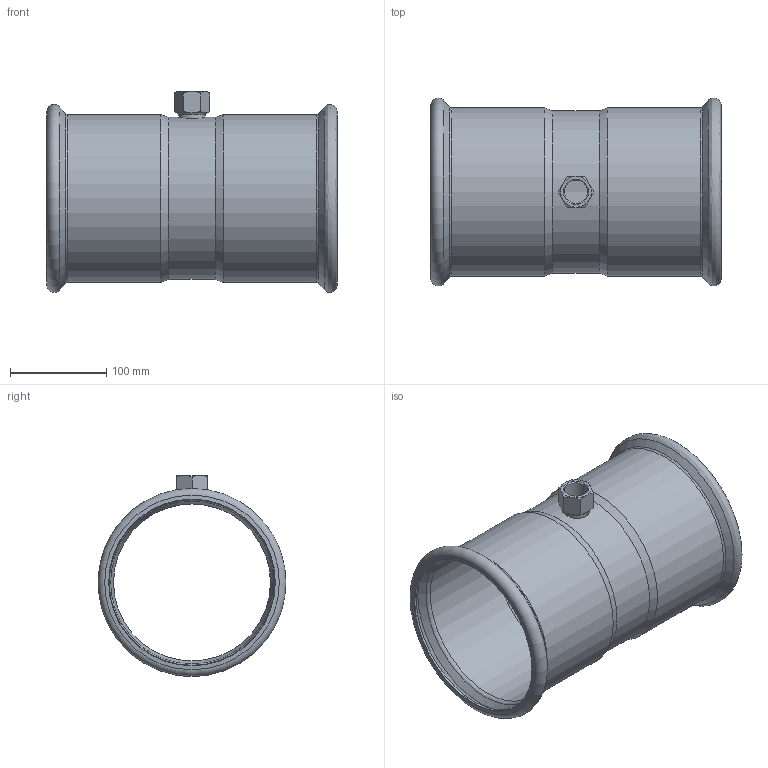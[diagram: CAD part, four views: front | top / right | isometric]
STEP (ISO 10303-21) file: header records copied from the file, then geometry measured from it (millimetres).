
FILE_DESCRIPTION((''),'2;1');
FILE_NAME('G:\Nirosan-Schmiedefeld\Technics\CAD\001 Serie 9.000\169_va\69130G16834168H(0).stp','2020-10-06T13:04:07',('herberg'),(''),'Autodesk Inventor 2009','Autodesk Inventor 2009','');
FILE_SCHEMA(('AUTOMOTIVE_DESIGN { 1 0 10303 214 1 1 1 1 }'));
Length unit declared in the file: millimetre
Products named in the file (3): 69130G16834168H(0); 69LM168_34P(0); IG2834(1)
Assembly tree (2 placements, depth 2):
  69130G16834168H(0)
    69LM168_34P(0)
    IG2834(1)
Bounding box: 302 x 195.19 x 208.59 mm (x, y, z)
Volume: 465613.2 mm3; surface area: 359083.6 mm2
Topology: 2 solids, 2 shells, 60 faces, 126 edges, 70 vertices
Faces by surface type: bspline 24, cone 21, plane 8, cylinder 5, torus 2
Full cylindrical faces by diameter (mm): 28 x1, 163.1 x1, 168.3 x1, 169.3 x1, 174.5 x1
Entity records: 2196 total; most frequent: CARTESIAN_POINT 1127, DIRECTION 194, ORIENTED_EDGE 174, EDGE_LOOP 102, AXIS2_PLACEMENT_3D 93, EDGE_CURVE 87, VERTEX_POINT 67, FACE_OUTER_BOUND 60
